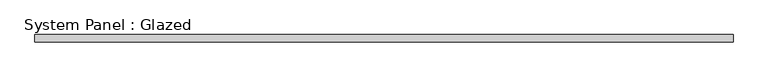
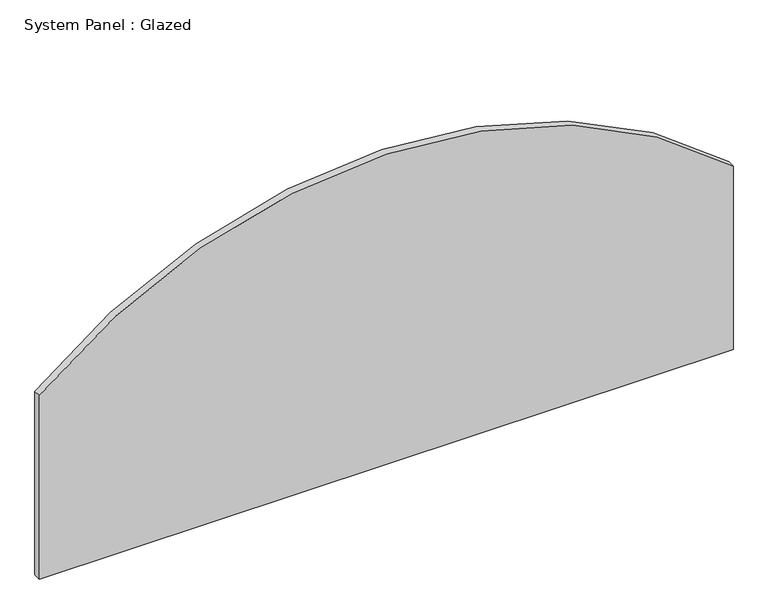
"""IFC4 building model written with IfcOpenShell, lengths in millimetres: plate geometry, System Panel : Glazed."""

from ifc_helpers import new_model, si_unit, point, frame, frame_2d, origin, place, context, project, spatial, polyline, circle_curve, trimmed, segment, composite_curve, outline, extrude, source, transform, mapped, element, save


def system_panel_glazed_e97e1c8c(model_context):
    return source(origin(), model_context, "Body", "SweptSolid", [
        extrude(outline(composite_curve([segment(polyline([(0.0, -1187.45), (0.0, 1187.45), (664.8837415, 1187.45)]), True, "CONTINUOUS"), segment(trimmed(circle_curve(frame_2d((-641.35, 0.0)), 1765.3), [point((664.8837415, 1187.45))], [point((664.8837415, -1187.45))], False, "CARTESIAN"), True, "CONTINUOUS"), segment(polyline([(664.8837415, -1187.45), (0.0, -1187.45)]), True, "CONTINUOUS")], self_intersect=False)), frame((0.0, -44.45, 0.0), z_axis=(0.0, 1.0, 0.0), x_axis=(0.0, 0.0, 1.0)), (0.0, 0.0, 1.0), 25.4),
    ])


if __name__ == "__main__":
    model = new_model("IFC4")
    model_context = context("Model", 3, world=origin())
    ifc_project = project(units=[si_unit("LENGTHUNIT", "METRE", prefix="MILLI")], contexts=[model_context])
    site = spatial("IfcSite", under=ifc_project)
    building = spatial("IfcBuilding", under=site)
    placement = place(None, origin())
    system_panel_glazed_shape = system_panel_glazed_e97e1c8c(model_context)
    element("IfcPlate", 1, ObjectType="System Panel : Glazed", at=placement, inside=building, context=model_context, shape_type="MappedRepresentation", body=[
        mapped(system_panel_glazed_shape, transform((0.0, 0.0, 0.0), x_axis=(1.0, 0.0, 0.0), y_axis=(0.0, 1.0, 0.0), z_axis=(0.0, 0.0, 1.0))),
    ])
    save(model, "model.ifc")
